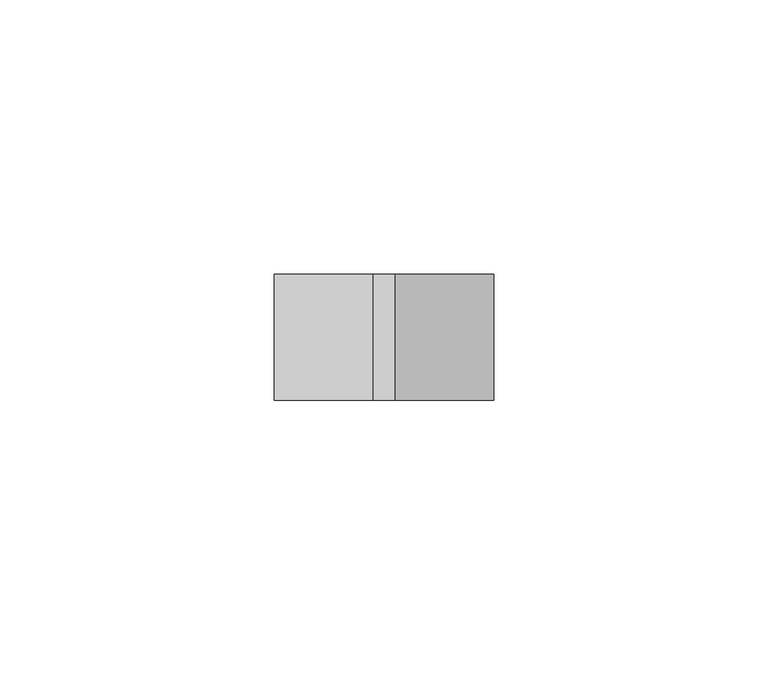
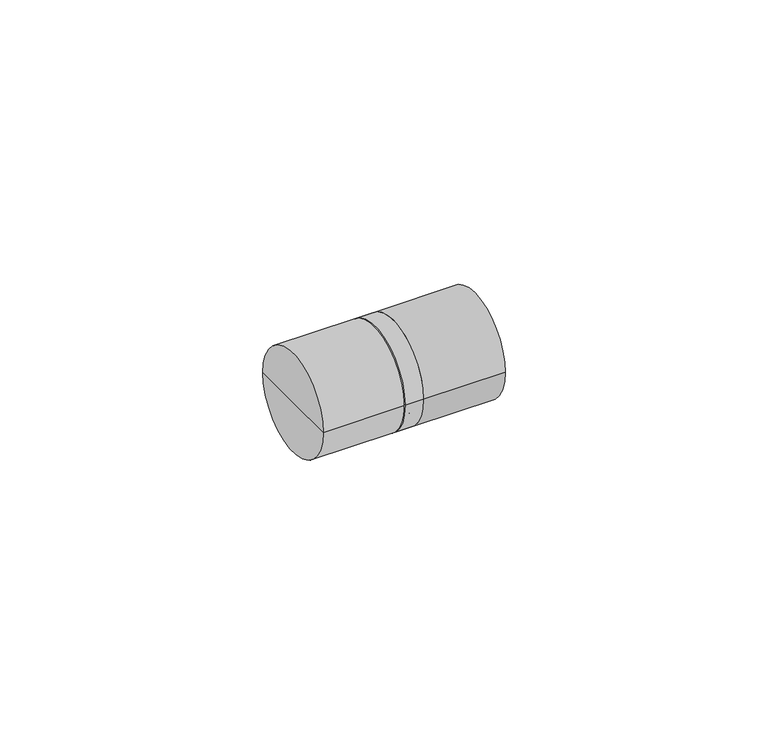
"""IFC4 building model written with IfcOpenShell, lengths in millimetres: pipe fitting geometry, KAN-therm Push 18x2 łącznik : KAN-therm Push 18x2 łącznik."""

import ifcopenshell
import ifcopenshell.guid

model = None  # the IFC model being written
_history = None  # IfcOwnerHistory: only IFC2X3 demands one
_inside = {}  # id of a spatial element -> (the spatial element, [elements in it])
_under = {}  # id of a project, library or spatial element -> (it, [spatial elements below it])
_declared = {}  # id of a project -> (the project, [libraries it declares])
_typed = {}  # id of a type object -> (the type object, [elements of that type])
_made_of = {}  # id of a material, layer set ... -> (it, [elements and type objects made of it])


def new_model(schema):
    """Start an empty IFC model of exactly this schema.

    Asked for "IFC4X3", IfcOpenShell would pick the latest addendum, in which some entities
    have other attributes; the version numbers below select the first issue.
    IFC2X3 requires an IfcOwnerHistory on every rooted entity: one is made here for all.
    """
    global model, _history
    if schema == "IFC4X3":
        model = ifcopenshell.file(schema_version=(4, 3, 0, 0))
    else:
        model = ifcopenshell.file(schema=schema)
    _inside.clear()
    _under.clear()
    _declared.clear()
    _typed.clear()
    _made_of.clear()
    _history = None
    if model.schema == "IFC2X3":
        org = make("IfcOrganization", Name="unknown")
        user = make(
            "IfcPersonAndOrganization",
            ThePerson=make("IfcPerson", FamilyName="unknown"),
            TheOrganization=org,
        )
        app = make(
            "IfcApplication",
            ApplicationDeveloper=org,
            Version="unknown",
            ApplicationFullName="unknown",
            ApplicationIdentifier="unknown",
        )
        _history = make(
            "IfcOwnerHistory",
            OwningUser=user,
            OwningApplication=app,
            ChangeAction="ADDED",
            CreationDate=0,
        )
    return model


def make(cls, **values):
    """One entity of the class cls with the attributes given. An attribute that is None is left unset."""
    return model.create_entity(
        cls, **{name: value for name, value in values.items() if value is not None}
    )


def rooted(cls, **values):
    """An entity with a GlobalId (a new one), such as an element, a storey or a relation."""
    return make(cls, GlobalId=ifcopenshell.guid.new(), OwnerHistory=_history, **values)


def si_unit(unit_type, name, prefix=None):
    """IfcSIUnit, for example si_unit("LENGTHUNIT", "METRE", prefix="MILLI")."""
    return make("IfcSIUnit", UnitType=unit_type, Prefix=prefix, Name=name)


def assignment(units):
    """IfcUnitAssignment: the units of a project."""
    return None if units is None else make("IfcUnitAssignment", Units=units)


def point(xyz):
    """IfcCartesianPoint."""
    return None if xyz is None else make("IfcCartesianPoint", Coordinates=xyz)


def direction(xyz):
    """IfcDirection."""
    return None if xyz is None else make("IfcDirection", DirectionRatios=xyz)


def frame(location, z_axis=None, x_axis=None):
    """IfcAxis2Placement3D, a coordinate frame: its origin and axes. An axis left out is left unset."""
    return make(
        "IfcAxis2Placement3D",
        Location=point(location),
        Axis=direction(z_axis),
        RefDirection=direction(x_axis),
    )


def origin():
    """The frame at (0, 0, 0) with its axes left unset."""
    return frame((0.0, 0.0, 0.0))


def place(relative_to, where):
    """IfcLocalPlacement: puts the frame where relative to a parent placement (None: the world)."""
    return make(
        "IfcLocalPlacement", PlacementRelTo=relative_to, RelativePlacement=where
    )


def context(
    kind, dimensions, precision=None, world=None, true_north=None, identifier=None
):
    """IfcGeometricRepresentationContext, for example the 3D "Model" context."""
    return make(
        "IfcGeometricRepresentationContext",
        ContextIdentifier=identifier,
        ContextType=kind,
        CoordinateSpaceDimension=dimensions,
        Precision=precision,
        WorldCoordinateSystem=world,
        TrueNorth=true_north,
    )


def project(units=None, contexts=None):
    """IfcProject with its units and contexts."""
    return rooted(
        "IfcProject",
        Name="project",
        RepresentationContexts=contexts,
        UnitsInContext=assignment(units),
    )


def spatial(cls, under=None, at=None, **own):
    """A site, building, storey or space (cls), placed at a placement, below another one or the project."""
    s = rooted(cls, ObjectPlacement=at, **own)
    if under is not None:
        _under.setdefault(under.id(), (under, []))[1].append(s)
    return s


def circle_curve(where, radius):
    """IfcCircle in the frame where."""
    return make("IfcCircle", Position=where, Radius=radius)


def shape(context_of_items, identifier, shape_type, items):
    """IfcShapeRepresentation: the items that make up one representation, for example the "Body"."""
    return make(
        "IfcShapeRepresentation",
        ContextOfItems=context_of_items,
        RepresentationIdentifier=identifier,
        RepresentationType=shape_type,
        Items=items,
    )


def source(mapping_origin, context_of_items, identifier, shape_type, items):
    """IfcRepresentationMap: a shape defined once, which mapped items show again and again."""
    return make(
        "IfcRepresentationMap",
        MappingOrigin=mapping_origin,
        MappedRepresentation=shape(context_of_items, identifier, shape_type, items),
    )


def transform(
    local_origin,
    x_axis=None,
    y_axis=None,
    z_axis=None,
    scale=None,
    scale2=None,
    scale3=None,
    uniform=True,
):
    """IfcCartesianTransformationOperator3D, or its non-uniform kind. x_axis, y_axis, z_axis: its Axis1, 2, 3."""
    if uniform:
        return make(
            "IfcCartesianTransformationOperator3D",
            Axis1=direction(x_axis),
            Axis2=direction(y_axis),
            LocalOrigin=point(local_origin),
            Scale=scale,
            Axis3=direction(z_axis),
        )
    return make(
        "IfcCartesianTransformationOperator3DnonUniform",
        Axis1=direction(x_axis),
        Axis2=direction(y_axis),
        LocalOrigin=point(local_origin),
        Scale=scale,
        Axis3=direction(z_axis),
        Scale2=scale2,
        Scale3=scale3,
    )


def mapped(mapping_source, mapping_target):
    """IfcMappedItem: shows the shape of a source again, moved by a transform."""
    return make(
        "IfcMappedItem", MappingSource=mapping_source, MappingTarget=mapping_target
    )


def made_of(thing, what):
    """Note that an element or type object is made of a material, layer set ...; save() writes the relation."""
    if what is not None:
        _made_of.setdefault(what.id(), (what, []))[1].append(thing)
    return thing


def element(
    cls,
    number,
    at=None,
    inside=None,
    cuts=None,
    type_object=None,
    material=None,
    context=None,
    identifier="Body",
    shape_type=None,
    held_by="IfcProductDefinitionShape",
    body=None,
    shapes=None,
    **own,
):
    """One element of the class cls, such as IfcWall. Its Tag is "e" and its number.

    at: its placement. inside: the storey or other place that contains it. cuts: it is an
    opening in that element (IfcRelVoidsElement). A single representation is given by context,
    identifier, shape_type and body (its items); several are given by shapes. held_by: the class
    of the entity that holds the representations. save() writes the other relations.
    """
    e = rooted(cls, Tag="e%d" % number, ObjectPlacement=at, **own)
    if body is not None:
        shapes = [shape(context, identifier, shape_type, body)]
    if shapes is not None:
        e.Representation = make(held_by, Representations=shapes)
    if inside is not None:
        _inside.setdefault(inside.id(), (inside, []))[1].append(e)
    if cuts is not None:
        rooted(
            "IfcRelVoidsElement", RelatingBuildingElement=cuts, RelatedOpeningElement=e
        )
    if type_object is not None:
        _typed.setdefault(type_object.id(), (type_object, []))[1].append(e)
    return made_of(e, material)


def aggregate(whole, parts):
    """IfcRelAggregates: a whole, such as a stair, and the parts it consists of."""
    return rooted("IfcRelAggregates", RelatingObject=whole, RelatedObjects=parts)


def save(model, path):
    """Write the relations noted so far, then the file.

    IfcRelAggregates (storeys below a building ...), IfcRelContainedInSpatialStructure (elements
    in a storey), IfcRelDefinesByType, IfcRelAssociatesMaterial and IfcRelDeclares: one each for
    every whole, place, type object, material and project.
    """
    for whole, parts in _under.values():
        aggregate(whole, parts)
    for where, things in _inside.values():
        rooted(
            "IfcRelContainedInSpatialStructure",
            RelatedElements=things,
            RelatingStructure=where,
        )
    for kind, things in _typed.values():
        rooted("IfcRelDefinesByType", RelatedObjects=things, RelatingType=kind)
    for what, things in _made_of.values():
        rooted("IfcRelAssociatesMaterial", RelatedObjects=things, RelatingMaterial=what)
    for by, libraries in _declared.values():
        rooted("IfcRelDeclares", RelatingContext=by, RelatedDefinitions=libraries)
    model.write(path)


def plane_surface(at):
    """IfcPlane: the flat surface through the origin of the frame at, square to its z axis."""
    return make("IfcPlane", Position=at)


def cylinder_surface(at, radius):
    """IfcCylindricalSurface: all points at the distance radius from the z axis of the frame at."""
    return make("IfcCylindricalSurface", Position=at, Radius=radius)


def advanced_brep(points, edges, surfaces, faces):
    """IfcAdvancedBrep: a solid bounded by faces that lie on surfaces and meet in shared edges.

    An edge is (start, end): straight between two places in points (the first is 0);
    or (start, end, curve); or (start, end, curve, False) where it runs against its curve.
    A face is (place in surfaces, loops), or (place, loops, False) where it looks against
    its surface's normal. A loop lists edges by number (the first is 1), with a minus sign
    where the edge is run from its end to its start. The first loop is the outer one.
    """
    corners = [point(p) for p in points]
    vertices = [make("IfcVertexPoint", VertexGeometry=c) for c in corners]
    made = []
    for start, end, *more in edges:
        made.append(
            make(
                "IfcEdgeCurve",
                EdgeStart=vertices[start],
                EdgeEnd=vertices[end],
                EdgeGeometry=more[0] if more else make("IfcPolyline", Points=[corners[start], corners[end]]),
                SameSense=more[1] if len(more) > 1 else True,
            )
        )
    hull = []
    for where, loops, *sense in faces:
        bounds = []
        for j, loop in enumerate(loops):
            ring = [make("IfcOrientedEdge", EdgeElement=made[abs(k) - 1], Orientation=k > 0) for k in loop]
            bounds.append(
                make(
                    "IfcFaceOuterBound" if j == 0 else "IfcFaceBound",
                    Bound=make("IfcEdgeLoop", EdgeList=ring),
                    Orientation=True,
                )
            )
        hull.append(make("IfcAdvancedFace", Bounds=bounds, FaceSurface=surfaces[where], SameSense=sense[0] if sense else True))
    return make("IfcAdvancedBrep", Outer=make("IfcClosedShell", CfsFaces=hull))


def pipe_fitting_04f32304(model_context):
    return source(origin(), model_context, "Body", "AdvancedBrep", [
        advanced_brep(
        [(-2.0, -11.5, 0.0), (-2.0, 0.0, 0.0), (-2.0, 11.5, 0.0), (2.0, -11.5, 0.0), (2.0, 11.5, 0.0), (2.0, 0.0, 0.0)],
        [
            (0, 1),
            (1, 2),
            (2, 0, circle_curve(frame((-2.0, 0.0, 0.0), z_axis=(-1.0, 0.0, 0.0), x_axis=(0.0, 1.0, 0.0)), 11.5)),
            (0, 2, circle_curve(frame((-2.0, 0.0, 0.0), z_axis=(-1.0, 0.0, 0.0), x_axis=(0.0, 1.0, 0.0)), 11.5)),
            (3, 0),
            (2, 4),
            (4, 3, circle_curve(frame((2.0, 0.0, 0.0), z_axis=(-1.0, 0.0, 0.0), x_axis=(0.0, 1.0, 0.0)), 11.5)),
            (3, 4, circle_curve(frame((2.0, 0.0, 0.0), z_axis=(-1.0, 0.0, 0.0), x_axis=(0.0, 1.0, 0.0)), 11.5)),
            (5, 3),
            (4, 5),
        ],
        [
            plane_surface(frame((-2.0, 0.0, 0.0), z_axis=(-1.0, 0.0, 0.0), x_axis=(0.0, 1.0, 0.0))),
            cylinder_surface(frame((-1997.0, 0.0, 0.0), z_axis=(1.0, 0.0, 0.0), x_axis=(0.0, 1.0, 0.0)), 11.5),
            plane_surface(frame((2.0, 0.0, 0.0), z_axis=(1.0, 0.0, 0.0), x_axis=(0.0, 1.0, 0.0))),
        ],
        [
            (0, [[1, 2, 3]]),
            (0, [[-2, -1, 4]]),
            (1, [[5, -3, 6, 7]]),
            (1, [[-6, -4, -5, 8]]),
            (2, [[9, -7, 10]]),
            (2, [[-10, -8, -9]]),
        ],
    ),
        advanced_brep(
        [(-20.0, -11.5, 0.0), (-20.0, 0.0, 0.0), (-20.0, 11.5, 0.0), (-2.0, -11.5, 0.0), (-2.0, 11.5, 0.0), (-2.0, 0.0, 0.0)],
        [
            (0, 1),
            (1, 2),
            (2, 0, circle_curve(frame((-20.0, 0.0, 0.0), z_axis=(-1.0, 0.0, 0.0), x_axis=(0.0, 1.0, 0.0)), 11.5)),
            (0, 2, circle_curve(frame((-20.0, 0.0, 0.0), z_axis=(-1.0, 0.0, 0.0), x_axis=(0.0, 1.0, 0.0)), 11.5)),
            (3, 0),
            (2, 4),
            (4, 3, circle_curve(frame((-2.0, 0.0, 0.0), z_axis=(-1.0, 0.0, 0.0), x_axis=(0.0, 1.0, 0.0)), 11.5)),
            (3, 4, circle_curve(frame((-2.0, 0.0, 0.0), z_axis=(-1.0, 0.0, 0.0), x_axis=(0.0, 1.0, 0.0)), 11.5)),
            (5, 3),
            (4, 5),
        ],
        [
            plane_surface(frame((-20.0, 0.0, 0.0), z_axis=(-1.0, 0.0, 0.0), x_axis=(0.0, 1.0, 0.0))),
            cylinder_surface(frame((-1997.0, 0.0, 0.0), z_axis=(1.0, 0.0, 0.0), x_axis=(0.0, 1.0, 0.0)), 11.5),
            plane_surface(frame((-2.0, 0.0, 0.0), z_axis=(1.0, 0.0, 0.0), x_axis=(0.0, 1.0, 0.0))),
        ],
        [
            (0, [[1, 2, 3]]),
            (0, [[-2, -1, 4]]),
            (1, [[5, -3, 6, 7]]),
            (1, [[-6, -4, -5, 8]]),
            (2, [[9, -7, 10]]),
            (2, [[-10, -8, -9]]),
        ],
    ),
        advanced_brep(
        [(2.0, -11.5, 0.0), (2.0, 11.5, 0.0), (2.0, 0.0, 0.0), (-2.0, -11.5, 0.0), (-2.0, 11.5, 0.0), (-2.0, 0.0, 0.0)],
        [
            (0, 1, circle_curve(frame((2.0, 0.0, 0.0), z_axis=(1.0, 0.0, 0.0), x_axis=(0.0, 1.0, 0.0)), 11.5)),
            (1, 2),
            (2, 0),
            (1, 0, circle_curve(frame((2.0, 0.0, 0.0), z_axis=(1.0, 0.0, 0.0), x_axis=(0.0, 1.0, 0.0)), 11.5)),
            (3, 4, circle_curve(frame((-2.0, 0.0, 0.0), z_axis=(1.0, 0.0, 0.0), x_axis=(0.0, 1.0, 0.0)), 11.5)),
            (4, 1),
            (0, 3),
            (4, 3, circle_curve(frame((-2.0, 0.0, 0.0), z_axis=(1.0, 0.0, 0.0), x_axis=(0.0, 1.0, 0.0)), 11.5)),
            (5, 4),
            (3, 5),
        ],
        [
            plane_surface(frame((2.0, 0.0, 0.0), z_axis=(1.0, 0.0, 0.0), x_axis=(0.0, 1.0, 0.0))),
            cylinder_surface(frame((1997.0, 0.0, 0.0), z_axis=(-1.0, 0.0, 0.0), x_axis=(0.0, 1.0, 0.0)), 11.5),
            plane_surface(frame((-2.0, 0.0, 0.0), z_axis=(-1.0, 0.0, 0.0), x_axis=(0.0, 1.0, 0.0))),
        ],
        [
            (0, [[1, 2, 3]]),
            (0, [[4, -3, -2]]),
            (1, [[5, 6, -1, 7]]),
            (1, [[8, -7, -4, -6]]),
            (2, [[9, -5, 10]]),
            (2, [[-10, -8, -9]]),
        ],
    ),
        advanced_brep(
        [(20.0, -11.5, 0.0), (20.0, 11.5, 0.0), (20.0, 0.0, 0.0), (2.0, -11.5, 0.0), (2.0, 11.5, 0.0), (2.0, 0.0, 0.0)],
        [
            (0, 1, circle_curve(frame((20.0, 0.0, 0.0), z_axis=(1.0, 0.0, 0.0), x_axis=(0.0, 1.0, 0.0)), 11.5)),
            (1, 2),
            (2, 0),
            (1, 0, circle_curve(frame((20.0, 0.0, 0.0), z_axis=(1.0, 0.0, 0.0), x_axis=(0.0, 1.0, 0.0)), 11.5)),
            (3, 4, circle_curve(frame((2.0, 0.0, 0.0), z_axis=(1.0, 0.0, 0.0), x_axis=(0.0, 1.0, 0.0)), 11.5)),
            (4, 1),
            (0, 3),
            (4, 3, circle_curve(frame((2.0, 0.0, 0.0), z_axis=(1.0, 0.0, 0.0), x_axis=(0.0, 1.0, 0.0)), 11.5)),
            (5, 4),
            (3, 5),
        ],
        [
            plane_surface(frame((20.0, 0.0, 0.0), z_axis=(1.0, 0.0, 0.0), x_axis=(0.0, 1.0, 0.0))),
            cylinder_surface(frame((1997.0, 0.0, 0.0), z_axis=(-1.0, 0.0, 0.0), x_axis=(0.0, 1.0, 0.0)), 11.5),
            plane_surface(frame((2.0, 0.0, 0.0), z_axis=(-1.0, 0.0, 0.0), x_axis=(0.0, 1.0, 0.0))),
        ],
        [
            (0, [[1, 2, 3]]),
            (0, [[4, -3, -2]]),
            (1, [[5, 6, -1, 7]]),
            (1, [[8, -7, -4, -6]]),
            (2, [[9, -5, 10]]),
            (2, [[-10, -8, -9]]),
        ],
    ),
        advanced_brep(
        [(2.0, -9.0, 0.0), (2.0, 9.0, 0.0), (2.0, 0.0, 0.0), (-2.0, -9.0, 0.0), (-2.0, 9.0, 0.0), (-2.0, 0.0, 0.0)],
        [
            (0, 1, circle_curve(frame((2.0, 0.0, 0.0), z_axis=(1.0, 0.0, 0.0), x_axis=(0.0, 1.0, 0.0)), 9.0)),
            (1, 2),
            (2, 0),
            (1, 0, circle_curve(frame((2.0, 0.0, 0.0), z_axis=(1.0, 0.0, 0.0), x_axis=(0.0, 1.0, 0.0)), 9.0)),
            (3, 4, circle_curve(frame((-2.0, 0.0, 0.0), z_axis=(1.0, 0.0, 0.0), x_axis=(0.0, 1.0, 0.0)), 9.0)),
            (4, 1),
            (0, 3),
            (4, 3, circle_curve(frame((-2.0, 0.0, 0.0), z_axis=(1.0, 0.0, 0.0), x_axis=(0.0, 1.0, 0.0)), 9.0)),
            (5, 4),
            (3, 5),
        ],
        [
            plane_surface(frame((2.0, 0.0, 0.0), z_axis=(1.0, 0.0, 0.0), x_axis=(0.0, 1.0, 0.0))),
            cylinder_surface(frame((1996.0, 0.0, 0.0), z_axis=(-1.0, 0.0, 0.0), x_axis=(0.0, 1.0, 0.0)), 9.0),
            plane_surface(frame((-2.0, 0.0, 0.0), z_axis=(-1.0, 0.0, 0.0), x_axis=(0.0, 1.0, 0.0))),
        ],
        [
            (0, [[1, 2, 3]]),
            (0, [[4, -3, -2]]),
            (1, [[5, 6, -1, 7]]),
            (1, [[8, -7, -4, -6]]),
            (2, [[9, -5, 10]]),
            (2, [[-10, -8, -9]]),
        ],
    ),
    ])


if __name__ == "__main__":
    model = new_model("IFC4")
    model_context = context("Model", 3, world=origin())
    ifc_project = project(units=[si_unit("LENGTHUNIT", "METRE", prefix="MILLI")], contexts=[model_context])
    site = spatial("IfcSite", under=ifc_project)
    building = spatial("IfcBuilding", under=site)
    placement = place(None, origin())
    pipe_fitting_shape = pipe_fitting_04f32304(model_context)
    element("IfcPipeFitting", 1, ObjectType="KAN-therm Push 18x2 łącznik : KAN-therm Push 18x2 łącznik", at=placement, inside=building, context=model_context, shape_type="MappedRepresentation", body=[
        mapped(pipe_fitting_shape, transform((0.0, 0.0, 0.0), x_axis=(1.0, 0.0, 0.0), y_axis=(0.0, 1.0, 0.0), z_axis=(0.0, 0.0, 1.0))),
    ])
    save(model, "model.ifc")
